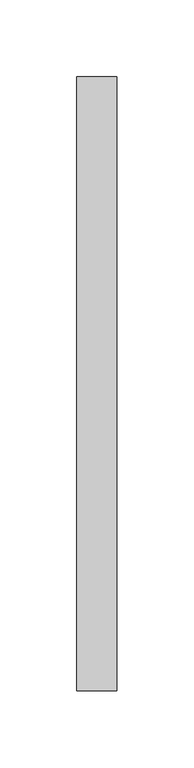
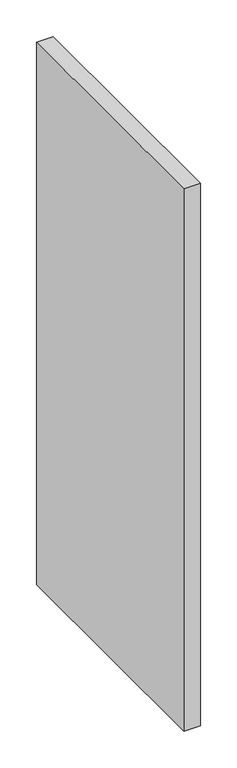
"""IFC4 building model written with IfcOpenShell, lengths in millimetres: duct fitting geometry, ADSK_ВрезкаВоздуховода_Прямоугольная : Стандарт."""

from ifc_helpers import new_model, si_unit, frame, origin, place, context, project, spatial, polyline, outline, extrude, source, transform, mapped, element, save


def duct_fitting_1df0ebde(model_context):
    return source(origin(), model_context, "Body", "SweptSolid", [
        extrude(outline(polyline([(-6.096, -200.0), (-6.096, 200.0), (20.0, 200.0), (20.0, -200.0), (-6.096, -200.0)])), frame((0.0, 0.0, -450.0), z_axis=(0.0, 0.0, 1.0), x_axis=(1.0, 0.0, 0.0)), (0.0, 0.0, 1.0), 900.0),
    ])


if __name__ == "__main__":
    model = new_model("IFC4")
    model_context = context("Model", 3, world=origin())
    ifc_project = project(units=[si_unit("LENGTHUNIT", "METRE", prefix="MILLI")], contexts=[model_context])
    site = spatial("IfcSite", under=ifc_project)
    building = spatial("IfcBuilding", under=site)
    placement = place(None, origin())
    duct_fitting_shape = duct_fitting_1df0ebde(model_context)
    element("IfcDuctFitting", 1, ObjectType="ADSK_ВрезкаВоздуховода_Прямоугольная : Стандарт", at=placement, inside=building, context=model_context, shape_type="MappedRepresentation", body=[
        mapped(duct_fitting_shape, transform((0.0, 0.0, 0.0), x_axis=(1.0, 0.0, 0.0), y_axis=(0.0, 1.0, 0.0), z_axis=(0.0, 0.0, 1.0))),
    ])
    save(model, "model.ifc")
